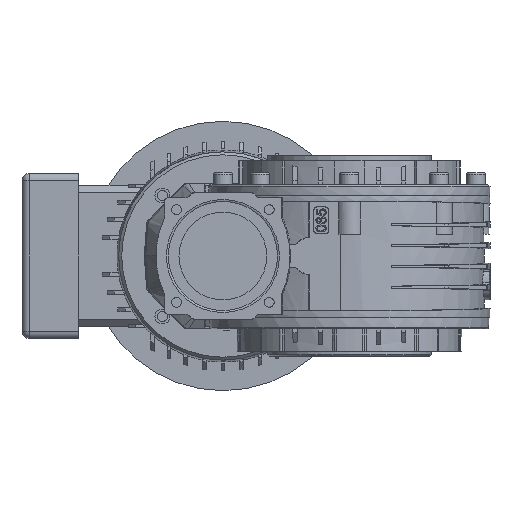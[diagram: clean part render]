
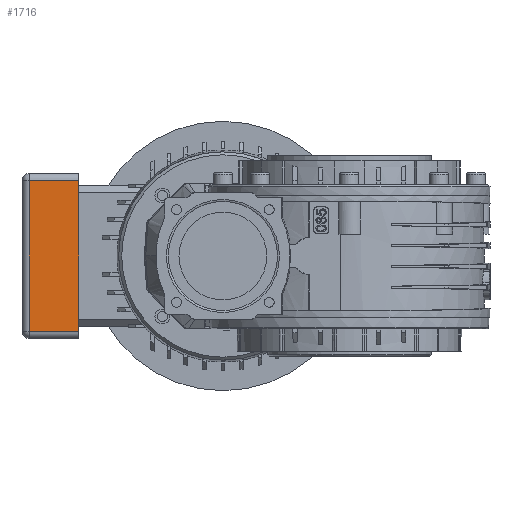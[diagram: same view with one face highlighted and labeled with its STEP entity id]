
A CAD part, left-side view. The second image highlights one B-rep face of the part: STEP entity #1716.
In plain terms, the highlighted planar face has unit normal (-1, 0, 0).
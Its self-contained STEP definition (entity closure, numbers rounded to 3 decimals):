
#1716 = ADVANCED_FACE( '', ( #4582 ), #4583, .T. );
#4582 = FACE_OUTER_BOUND( '', #9507, .T. );
#4583 = PLANE( '', #9508 );
#9507 = EDGE_LOOP( '', ( #19752, #19753, #19754, #19755 ) );
#9508 = AXIS2_PLACEMENT_3D( '', #19756, #19757, #19758 );
#19752 = ORIENTED_EDGE( '', *, *, #31283, .T. );
#19753 = ORIENTED_EDGE( '', *, *, #31284, .T. );
#19754 = ORIENTED_EDGE( '', *, *, #30360, .T. );
#19755 = ORIENTED_EDGE( '', *, *, #31285, .T. );
#19756 = CARTESIAN_POINT( '', ( 160.5, 182., -55.5 ) );
#19757 = DIRECTION( '', ( -1., 0., 0. ) );
#19758 = DIRECTION( '', ( 0., 0., -1. ) );
#30360 = EDGE_CURVE( '', #34999, #34997, #35000, .T. );
#31283 = EDGE_CURVE( '', #36619, #36620, #36621, .T. );
#31284 = EDGE_CURVE( '', #36620, #34999, #36622, .T. );
#31285 = EDGE_CURVE( '', #34997, #36619, #36623, .T. );
#34997 = VERTEX_POINT( '', #41961 );
#34999 = VERTEX_POINT( '', #41963 );
#35000 = LINE( '', #41964, #41965 );
#36619 = VERTEX_POINT( '', #45789 );
#36620 = VERTEX_POINT( '', #45790 );
#36621 = LINE( '', #45791, #45792 );
#36622 = LINE( '', #45793, #45794 );
#36623 = LINE( '', #45795, #45796 );
#41961 = CARTESIAN_POINT( '', ( 160.5, 182., 50.5 ) );
#41963 = CARTESIAN_POINT( '', ( 160.5, 182., -50.5 ) );
#41964 = CARTESIAN_POINT( '', ( 160.5, 182., -55.5 ) );
#41965 = VECTOR( '', #58241, 1000. );
#45789 = CARTESIAN_POINT( '', ( 160.5, 215., 50.5 ) );
#45790 = CARTESIAN_POINT( '', ( 160.5, 215., -50.5 ) );
#45791 = CARTESIAN_POINT( '', ( 160.5, 215., -55.5 ) );
#45792 = VECTOR( '', #59293, 1000. );
#45793 = CARTESIAN_POINT( '', ( 160.5, 182., -50.5 ) );
#45794 = VECTOR( '', #59294, 1000. );
#45795 = CARTESIAN_POINT( '', ( 160.5, 182., 50.5 ) );
#45796 = VECTOR( '', #59295, 1000. );
#58241 = DIRECTION( '', ( 0., 0., 1. ) );
#59293 = DIRECTION( '', ( 0., 0., -1. ) );
#59294 = DIRECTION( '', ( 0., -1., 0. ) );
#59295 = DIRECTION( '', ( 0., 1., 0. ) );
